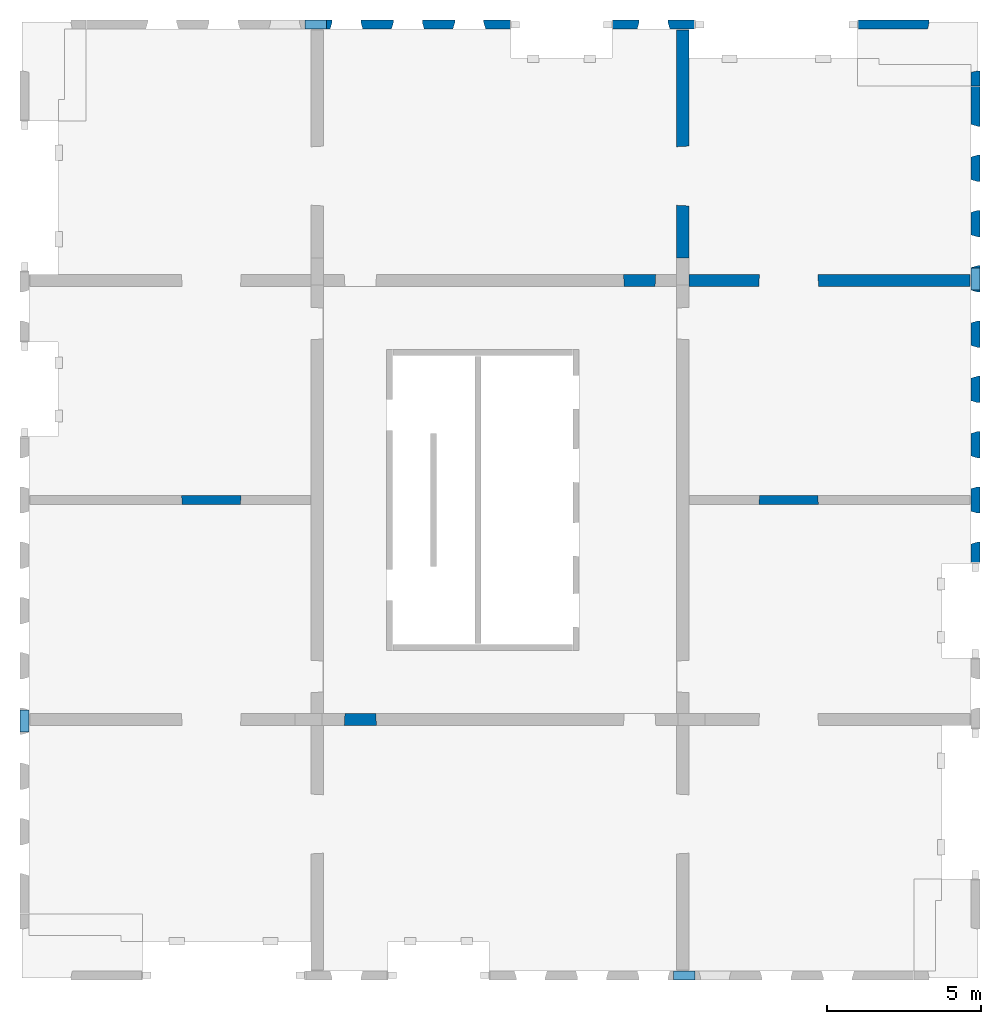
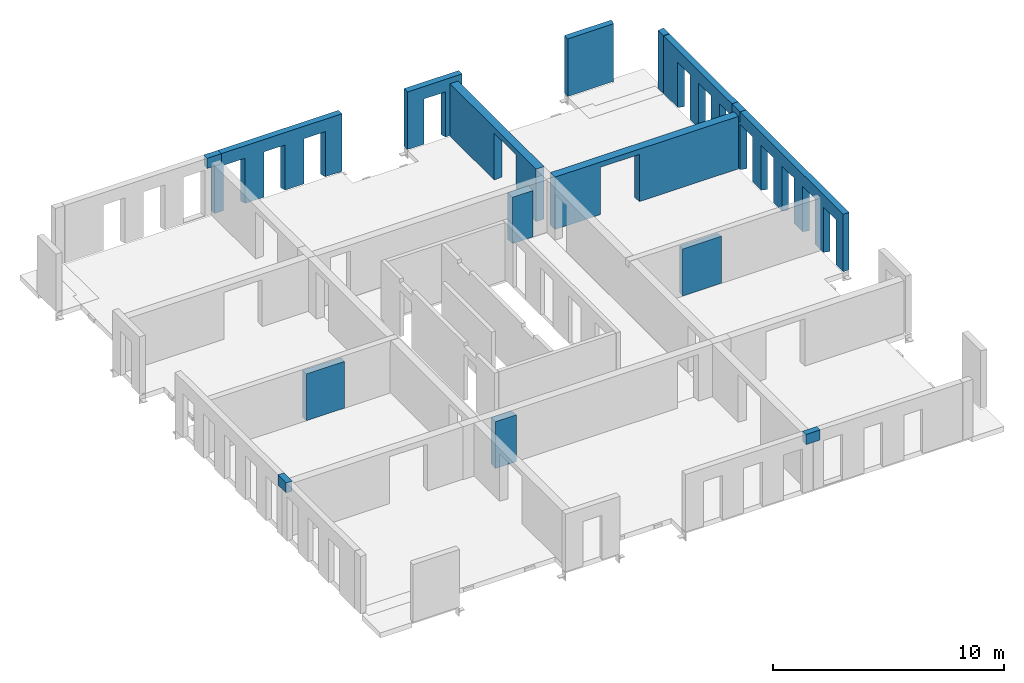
# One storey, part 4 of 4: 16 walls, 19 openings.
"""IFC2X3 building model written with IfcOpenShell, lengths in millimetres."""

from ifc_helpers import new_model, entity, si_unit, converted_unit, derived_unit, direction, frame, frame_2d, origin, place, context, subcontext, project, spatial, rectangle, extrude, faceted_brep, material, layer, layer_set, layer_usage, type_object, element, save


model = new_model("IFC2X3")

# Units and contexts
model_context = context("Model", 3, precision=0.01, world=origin(), true_north=direction((6.12303176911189e-17, 1.0)))
body_context = subcontext(model_context, "Body", "Model", "MODEL_VIEW")
ifc_project = project(units=[si_unit("LENGTHUNIT", "METRE", prefix="MILLI"), si_unit("AREAUNIT", "SQUARE_METRE"), si_unit("VOLUMEUNIT", "CUBIC_METRE"), converted_unit("PLANEANGLEUNIT", "DEGREE", entity("IfcRatioMeasure", 0.0174532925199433), si_unit("PLANEANGLEUNIT", "RADIAN"), dimensions=[0, 0, 0, 0, 0, 0, 0]), si_unit("MASSUNIT", "GRAM", prefix="KILO"), derived_unit("MASSDENSITYUNIT", [(si_unit("MASSUNIT", "GRAM", prefix="KILO"), 1), (si_unit("LENGTHUNIT", "METRE"), -3)]), si_unit("TIMEUNIT", "SECOND"), si_unit("FREQUENCYUNIT", "HERTZ"), si_unit("THERMODYNAMICTEMPERATUREUNIT", "DEGREE_CELSIUS"), derived_unit("THERMALTRANSMITTANCEUNIT", [(si_unit("MASSUNIT", "GRAM", prefix="KILO"), 1), (si_unit("THERMODYNAMICTEMPERATUREUNIT", "KELVIN"), -1), (si_unit("TIMEUNIT", "SECOND"), -3)]), derived_unit("VOLUMETRICFLOWRATEUNIT", [(si_unit("LENGTHUNIT", "METRE"), 3), (si_unit("TIMEUNIT", "SECOND"), -1)]), si_unit("ELECTRICCURRENTUNIT", "AMPERE"), si_unit("ELECTRICVOLTAGEUNIT", "VOLT"), si_unit("POWERUNIT", "WATT"), si_unit("FORCEUNIT", "NEWTON", prefix="KILO"), si_unit("ILLUMINANCEUNIT", "LUX"), si_unit("LUMINOUSFLUXUNIT", "LUMEN"), si_unit("LUMINOUSINTENSITYUNIT", "CANDELA"), derived_unit("USERDEFINED", [(si_unit("MASSUNIT", "GRAM", prefix="KILO"), -1), (si_unit("LENGTHUNIT", "METRE"), -2), (si_unit("TIMEUNIT", "SECOND"), 3), (si_unit("LUMINOUSFLUXUNIT", "LUMEN"), 1)]), derived_unit("LINEARVELOCITYUNIT", [(si_unit("LENGTHUNIT", "METRE"), 1), (si_unit("TIMEUNIT", "SECOND"), -1)]), si_unit("PRESSUREUNIT", "PASCAL"), derived_unit("USERDEFINED", [(si_unit("LENGTHUNIT", "METRE"), -2), (si_unit("MASSUNIT", "GRAM", prefix="KILO"), 1), (si_unit("TIMEUNIT", "SECOND"), -2)])], contexts=[model_context])

# Site, building, storey
site_placement = place(None, origin())
site = spatial("IfcSite", under=ifc_project, at=site_placement, Name="Default", CompositionType="ELEMENT")
building_placement = place(site_placement, origin())
building = spatial("IfcBuilding", under=site, at=building_placement, Name="niet gebruiken", CompositionType="ELEMENT")
storey_placement = place(building_placement, frame((0.0, 0.0, 79200.0)))
storey = spatial("IfcBuildingStorey", under=building, at=storey_placement, Name="25 vijfentwintigste verdieping", CompositionType="ELEMENT", Elevation=79200.0000000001)

# Walls
ifc_material_1 = material(Name="NLRS_f2_beton ihwg")
ifc_layer_1 = layer(ifc_material_1, 300.0)
ifc_layer_set_1 = layer_set([ifc_layer_1], Name="Basic Wall:NLRS_21.21_WA_beton ihwg d=300_gen")
ifc_layer_usage_1 = layer_usage(ifc_layer_set_1, "AXIS2", "NEGATIVE", 150.0)
wall_type_1 = type_object("IfcWallType", Name="Basic Wall:NLRS_21.21_WA_beton ihwg d=300_gen", PredefinedType="STANDARD", material=ifc_layer_set_1)
wall_1_placement = place(storey_placement, frame((148105.0, 2020.0, 2455.0), z_axis=(0.0, 0.0, 1.0), x_axis=(-1.0, 0.0, 0.0)))
element("IfcWallStandardCase", 1, at=wall_1_placement, inside=storey, type_object=wall_type_1, material=ifc_layer_usage_1, Name="Basic Wall:NLRS_21.21_WA_beton ihwg d=300_gen", ObjectType="Basic Wall:NLRS_21.21_WA_beton ihwg d=300_gen", context=body_context, shape_type="SweptSolid", body=[
    extrude(rectangle(XDim=710.000000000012, YDim=300.0, at=frame_2d((355.000000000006, -1.4210854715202e-14), x_axis=(-1.0, 0.0))), origin(), (0.0, 0.0, 1.0), 535.0),
])
ifc_layer_usage_2 = layer_usage(ifc_layer_set_1, "AXIS2", "NEGATIVE", 150.0)
wall_2_placement = place(storey_placement, frame((135395.0, 32980.0, 2455.0)))
element("IfcWallStandardCase", 2, at=wall_2_placement, inside=storey, type_object=wall_type_1, material=ifc_layer_usage_2, Name="Basic Wall:NLRS_21.21_WA_beton ihwg d=300_gen", ObjectType="Basic Wall:NLRS_21.21_WA_beton ihwg d=300_gen", context=body_context, shape_type="SweptSolid", body=[
    extrude(rectangle(XDim=710.000000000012, YDim=300.000000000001, at=frame_2d((355.000000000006, 0.0), x_axis=(-1.0, 0.0))), origin(), (0.0, 0.0, 1.0), 535.0),
])
ifc_layer_usage_3 = layer_usage(ifc_layer_set_1, "AXIS2", "NEGATIVE", 150.0)
wall_3_placement = place(storey_placement, frame((157230.0, 25055.0, 2455.0), z_axis=(0.0, 0.0, 1.0), x_axis=(0.0, -1.0, 0.0)))
element("IfcWallStandardCase", 3, at=wall_3_placement, inside=storey, type_object=wall_type_1, material=ifc_layer_usage_3, Name="Basic Wall:NLRS_21.21_WA_beton ihwg d=300_gen", ObjectType="Basic Wall:NLRS_21.21_WA_beton ihwg d=300_gen", context=body_context, shape_type="SweptSolid", body=[
    extrude(rectangle(XDim=710.000000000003, YDim=300.000000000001, at=frame_2d((355.000000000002, 9.9475983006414e-13), x_axis=(-1.0, 0.0))), origin(), (0.0, 0.0, 1.0), 535.0),
])
ifc_layer_usage_4 = layer_usage(ifc_layer_set_1, "AXIS2", "NEGATIVE", 150.0)
wall_4_placement = place(storey_placement, frame((126270.0, 9945.0, 2455.0), z_axis=(0.0, 0.0, 1.0), x_axis=(0.0, 1.0, 0.0)))
element("IfcWallStandardCase", 4, at=wall_4_placement, inside=storey, type_object=wall_type_1, material=ifc_layer_usage_4, Name="Basic Wall:NLRS_21.21_WA_beton ihwg d=300_gen", ObjectType="Basic Wall:NLRS_21.21_WA_beton ihwg d=300_gen", context=body_context, shape_type="SweptSolid", body=[
    extrude(rectangle(XDim=710.000000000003, YDim=300.000000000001, at=frame_2d((355.000000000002, 0.0), x_axis=(-1.0, 0.0))), origin(), (0.0, 0.0, 1.0), 535.0),
])

# Wall, opening
ifc_material_2 = material(Name="NLRS_f2_beton prefab")
ifc_layer_2 = layer(ifc_material_2, 400.0)
ifc_layer_set_2 = layer_set([ifc_layer_2], Name="Basic Wall:NLRS_22.21_WA_beton prefab d=400_gen")
ifc_layer_usage_5 = layer_usage(ifc_layer_set_2, "AXIS2", "NEGATIVE", 200.0)
wall_type_2 = type_object("IfcWallType", Name="Basic Wall:NLRS_22.21_WA_beton prefab d=400_gen", PredefinedType="STANDARD", material=ifc_layer_set_2)
wall_5_placement = place(storey_placement, frame((157060.0, 24650.0, -70.0), z_axis=(0.0, 0.0, 1.0), x_axis=(-1.0, 0.0, 0.0)))
wall_5 = element("IfcWallStandardCase", 5, at=wall_5_placement, inside=storey, type_object=wall_type_2, material=ifc_layer_usage_5, Name="Basic Wall:NLRS_22.21_WA_beton prefab d=400_gen", ObjectType="Basic Wall:NLRS_22.21_WA_beton prefab d=400_gen", context=body_context, shape_type="SweptSolid", body=[
    extrude(rectangle(XDim=9160.00000000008, YDim=399.999999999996, at=frame_2d((4580.00000000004, -9.2370555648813e-13), x_axis=(-1.0, 0.0))), origin(), (0.0, 0.0, 1.0), 2770.00000000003),
])
opening_1_placement = place(wall_5_placement, frame((6884.0, 200.0, 0.0)))
element("IfcOpeningElement", 6, at=opening_1_placement, cuts=wall_5, Name="Basic Wall:NLRS_22.21_WA_beton prefab d=400_gen", ObjectType="Opening", context=body_context, shape_type="Brep", body=[
    faceted_brep([(-24.0, -400.0, 2470.0), (-1924.0, -400.0, 2470.0), (-1924.0, -400.0, 0.0), (-24.0, -400.0, 0.0), (0.0, 0.0, 2494.0), (0.0, 0.0, 0.0), (-1948.0, 0.0, 0.0), (-1948.0, 0.0, 2494.0)], [[[0, 1, 2, 3]], [[4, 5, 6, 7]], [[4, 7, 1, 0]], [[7, 6, 2, 1]], [[6, 5, 3, 2]], [[5, 4, 0, 3]]]),
])

ifc_layer_usage_6 = layer_usage(ifc_layer_set_2, "AXIS2", "NEGATIVE", 200.0)
wall_6_placement = place(storey_placement, frame((147700.0, 25380.0, -70.0), z_axis=(0.0, 0.0, 1.0), x_axis=(0.0, 1.0, 0.0)))
wall_6 = element("IfcWallStandardCase", 7, at=wall_6_placement, inside=storey, type_object=wall_type_2, material=ifc_layer_usage_6, Name="Basic Wall:NLRS_22.21_WA_beton prefab d=400_gen", ObjectType="Basic Wall:NLRS_22.21_WA_beton prefab d=400_gen", context=body_context, shape_type="SweptSolid", body=[
    extrude(rectangle(XDim=7429.99999999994, YDim=400.000000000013, at=frame_2d((3714.99999999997, 7.14805992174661e-12), x_axis=(-1.0, 0.0))), origin(), (0.0, 0.0, 1.0), 2770.00000000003),
])
opening_2_placement = place(wall_6_placement, frame((1696.0, 200.0, 0.0)))
element("IfcOpeningElement", 8, at=opening_2_placement, cuts=wall_6, Name="Basic Wall:NLRS_22.21_WA_beton prefab d=400_gen", ObjectType="Opening", context=body_context, shape_type="Brep", body=[
    faceted_brep([(1924.0, 0.0, 2470.0), (1924.0, 0.0, 0.0), (24.0, 0.0, 0.0), (24.0, 0.0, 2470.0), (1948.0, -400.0, 2494.0), (0.0, -400.0, 2494.0), (0.0, -400.0, 0.0), (1948.0, -400.0, 0.0)], [[[0, 1, 2, 3]], [[4, 5, 6, 7]], [[4, 0, 3, 5]], [[5, 3, 2, 6]], [[6, 2, 1, 7]], [[7, 1, 0, 4]]]),
])

ifc_layer_3 = layer(ifc_material_2, 300.0)
ifc_layer_set_3 = layer_set([ifc_layer_3], Name="Basic Wall:NLRS_21.21_WA_beton prefab d=300/320_gen")
ifc_layer_usage_7 = layer_usage(ifc_layer_set_3, "AXIS2", "NEGATIVE", 150.0)
wall_type_3 = type_object("IfcWallType", Name="Basic Wall:NLRS_21.21_WA_beton prefab d=300/320_gen", PredefinedType="STANDARD", material=ifc_layer_set_3)
wall_7_placement = place(storey_placement, frame((145390.0, 32980.0, -50.0)))
wall_7 = element("IfcWallStandardCase", 9, at=wall_7_placement, inside=storey, type_object=wall_type_3, material=ifc_layer_usage_7, Name="Basic Wall:NLRS_21.21_WA_beton prefab d=300/320_gen", ObjectType="Basic Wall:NLRS_21.21_WA_beton prefab d=300/320_gen", context=body_context, shape_type="SweptSolid", body=[
    extrude(rectangle(XDim=2720.00000000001, YDim=300.000000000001, at=frame_2d((1360.0, -4.54747350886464e-13), x_axis=(-1.0, 0.0))), origin(), (0.0, 0.0, 1.0), 3040.0),
])
opening_3_placement = place(wall_7_placement, frame((825.0, -150.0, -20.0)))
element("IfcOpeningElement", 10, at=opening_3_placement, cuts=wall_7, Name="Basic Wall:NLRS_21.21_WA_beton prefab d=300/320_gen", ObjectType="Opening", context=body_context, shape_type="Brep", body=[
    faceted_brep([(0.0, 0.0, 2405.0), (0.0, 0.0, 0.0), (1070.0, 0.0, 0.0), (1070.0, 0.0, 2405.0), (1005.0, 219.0, 2370.0), (65.0, 219.0, 2370.0), (1005.0, 219.0, 0.0), (65.0, 219.0, 0.0), (65.0, 300.0, 0.0), (1005.0, 300.0, 0.0), (65.0, 300.0, 2370.0), (1005.0, 300.0, 2370.0)], [[[0, 1, 2, 3]], [[3, 4, 5, 0]], [[2, 6, 4, 3]], [[1, 7, 8, 9, 6, 2]], [[0, 5, 7, 1]], [[10, 11, 9, 8]], [[10, 5, 4, 11]], [[11, 4, 6, 9]], [[8, 7, 5, 10]]]),
])

# Wall, openings
ifc_layer_usage_8 = layer_usage(ifc_layer_set_3, "AXIS2", "NEGATIVE", 150.0)
wall_8_placement = place(storey_placement, frame((157230.0, 30960.0, -50.0), z_axis=(0.0, 0.0, 1.0), x_axis=(0.0, -1.0, 0.0)))
wall_8 = element("IfcWallStandardCase", 11, at=wall_8_placement, inside=storey, type_object=wall_type_3, material=ifc_layer_usage_8, Name="Basic Wall:NLRS_21.21_WA_beton prefab d=300/320_gen", ObjectType="Basic Wall:NLRS_21.21_WA_beton prefab d=300/320_gen", context=body_context, shape_type="SweptSolid", body=[
    extrude(rectangle(XDim=6249.99999999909, YDim=300.000000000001, at=frame_2d((3124.99999999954, -8.61177795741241e-12), x_axis=(-1.0, 0.0))), origin(), (0.0, 0.0, 1.0), 3039.99999999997),
])
opening_4_placement = place(wall_8_placement, frame((2295.0, -150.0, -20.0)))
element("IfcOpeningElement", 12, at=opening_4_placement, cuts=wall_8, Name="Basic Wall:NLRS_21.21_WA_beton prefab d=300/320_gen", ObjectType="Opening", context=body_context, shape_type="Brep", body=[
    faceted_brep([(-1070.0, 0.0, 2405.0), (-1070.0, 0.0, 0.0), (0.0, 0.0, 0.0), (0.0, 0.0, 2405.0), (-65.0, 219.0, 2370.0), (-1005.0, 219.0, 2370.0), (-65.0, 219.0, 0.0), (-1005.0, 219.0, 0.0), (-1005.0, 300.0, 0.0), (-65.0, 300.0, 0.0), (-1005.0, 300.0, 2370.0), (-65.0, 300.0, 2370.0)], [[[0, 1, 2, 3]], [[3, 4, 5, 0]], [[2, 6, 4, 3]], [[1, 7, 8, 9, 6, 2]], [[0, 5, 7, 1]], [[10, 11, 9, 8]], [[10, 5, 4, 11]], [[11, 4, 6, 9]], [[8, 7, 5, 10]]]),
])
opening_5_placement = place(wall_8_placement, frame((4095.0, -150.0, -20.0)))
element("IfcOpeningElement", 13, at=opening_5_placement, cuts=wall_8, Name="Basic Wall:NLRS_21.21_WA_beton prefab d=300/320_gen", ObjectType="Opening", context=body_context, shape_type="Brep", body=[
    faceted_brep([(-1070.0, 0.0, 2405.0), (-1070.0, 0.0, 0.0), (0.0, 0.0, 0.0), (0.0, 0.0, 2405.0), (-65.0, 219.0, 2370.0), (-1005.0, 219.0, 2370.0), (-65.0, 219.0, 0.0), (-1005.0, 219.0, 0.0), (-1005.0, 300.0, 0.0), (-65.0, 300.0, 0.0), (-1005.0, 300.0, 2370.0), (-65.0, 300.0, 2370.0)], [[[0, 1, 2, 3]], [[3, 4, 5, 0]], [[2, 6, 4, 3]], [[1, 7, 8, 9, 6, 2]], [[0, 5, 7, 1]], [[10, 11, 9, 8]], [[10, 5, 4, 11]], [[11, 4, 6, 9]], [[8, 7, 5, 10]]]),
])
opening_6_placement = place(wall_8_placement, frame((5895.0, -150.0, -20.0)))
element("IfcOpeningElement", 14, at=opening_6_placement, cuts=wall_8, Name="Basic Wall:NLRS_21.21_WA_beton prefab d=300/320_gen", ObjectType="Opening", context=body_context, shape_type="Brep", body=[
    faceted_brep([(-1070.0, 0.0, 2405.0), (-1070.0, 0.0, 0.0), (0.0, 0.0, 0.0), (0.0, 0.0, 2405.0), (-65.0, 219.0, 2370.0), (-1005.0, 219.0, 2370.0), (-65.0, 219.0, 0.0), (-1005.0, 219.0, 0.0), (-1005.0, 300.0, 0.0), (-65.0, 300.0, 0.0), (-1005.0, 300.0, 2370.0), (-65.0, 300.0, 2370.0)], [[[0, 1, 2, 3]], [[3, 4, 5, 0]], [[2, 6, 4, 3]], [[1, 7, 8, 9, 6, 2]], [[0, 5, 7, 1]], [[10, 11, 9, 8]], [[10, 5, 4, 11]], [[11, 4, 6, 9]], [[8, 7, 5, 10]]]),
])
opening_7_placement = place(wall_8_placement, origin())
element("IfcOpeningElement", 15, at=opening_7_placement, cuts=wall_8, Name="Basic Wall:NLRS_21.21_WA_beton prefab d=300/320_gen", ObjectType="Opening", context=body_context, shape_type="SweptSolid", body=[
    extrude(rectangle(XDim=534.99999999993, YDim=344.999999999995, at=frame_2d((0.0, -2.17426077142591e-12), x_axis=(1.0, 0.0))), frame((6077.49999999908, 150.0, 2772.5), z_axis=(0.0, -1.0, 0.0), x_axis=(0.0, 0.0, 1.0)), (0.0, 0.0, 1.0), 300.0),
])

# Wall, opening
ifc_layer_usage_9 = layer_usage(ifc_layer_set_3, "AXIS2", "NEGATIVE", 150.0)
wall_9_placement = place(storey_placement, frame((153390.0, 32980.0, -50.0)))
wall_9 = element("IfcWallStandardCase", 16, at=wall_9_placement, inside=storey, type_object=wall_type_3, material=ifc_layer_usage_9, Name="Basic Wall:NLRS_21.21_WA_beton prefab d=300/320_gen", ObjectType="Basic Wall:NLRS_21.21_WA_beton prefab d=300/320_gen", context=body_context, shape_type="SweptSolid", body=[
    extrude(rectangle(XDim=2330.00000000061, YDim=300.000000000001, at=frame_2d((1165.00000000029, -1.29318777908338e-12), x_axis=(-1.0, 0.0))), origin(), (0.0, 0.0, 1.0), 3040.0),
])
opening_8_placement = place(wall_9_placement, frame((2265.0, -250.0, 0.0)))
element("IfcOpeningElement", 17, at=opening_8_placement, cuts=wall_9, Name="Basic Wall:NLRS_21.21_WA_beton prefab d=300/320_gen", ObjectType="Opening", context=body_context, shape_type="Brep", body=[
    faceted_brep([(65.0, 0.0, 3040.0), (65.0, 319.0, 3040.0), (0.0, 0.0, 3040.0), (65.0, 0.0, 0.0), (0.0, 0.0, 0.0), (65.0, 319.0, 0.0)], [[[0, 1, 2]], [[3, 4, 5]], [[2, 4, 3, 0]], [[0, 3, 5, 1]], [[1, 5, 4, 2]]]),
])

ifc_layer_usage_10 = layer_usage(ifc_layer_set_3, "AXIS2", "NEGATIVE", 150.0)
wall_10_placement = place(storey_placement, frame((157230.0, 31470.0, -50.0), z_axis=(0.0, 0.0, 1.0), x_axis=(0.0, -1.0, 0.0)))
wall_10 = element("IfcWallStandardCase", 18, at=wall_10_placement, inside=storey, type_object=wall_type_3, material=ifc_layer_usage_10, Name="Basic Wall:NLRS_21.21_WA_beton prefab d=300/320_gen", ObjectType="Basic Wall:NLRS_21.21_WA_beton prefab d=300/320_gen", context=body_context, shape_type="SweptSolid", body=[
    extrude(rectangle(XDim=489.999999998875, YDim=300.000000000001, at=frame_2d((244.999999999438, -7.8159700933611e-13), x_axis=(-1.0, 0.0))), origin(), (0.0, 0.0, 1.0), 3040.0),
])
opening_9_placement = place(wall_10_placement, frame((65.0, -250.0, 0.0)))
element("IfcOpeningElement", 19, at=opening_9_placement, cuts=wall_10, Name="Basic Wall:NLRS_21.21_WA_beton prefab d=300/320_gen", ObjectType="Opening", context=body_context, shape_type="Brep", body=[
    faceted_brep([(-65.0, 0.0, 3040.0), (0.0, 0.0, 3040.0), (-65.0, 319.0, 3040.0), (-65.0, 0.0, 0.0), (-65.0, 319.0, 0.0), (0.0, 0.0, 0.0)], [[[0, 1, 2]], [[3, 4, 5]], [[1, 0, 3, 5]], [[0, 2, 4, 3]], [[2, 1, 5, 4]]]),
])

# Wall, openings
ifc_layer_usage_11 = layer_usage(ifc_layer_set_3, "AXIS2", "NEGATIVE", 150.0)
wall_11_placement = place(storey_placement, frame((157230.0, 24690.0, -50.0), z_axis=(0.0, 0.0, 1.0), x_axis=(0.0, -1.0, 0.0)))
wall_11 = element("IfcWallStandardCase", 20, at=wall_11_placement, inside=storey, type_object=wall_type_3, material=ifc_layer_usage_11, Name="Basic Wall:NLRS_21.21_WA_beton prefab d=300/320_gen", ObjectType="Basic Wall:NLRS_21.21_WA_beton prefab d=300/320_gen", context=body_context, shape_type="SweptSolid", body=[
    extrude(rectangle(XDim=9250.00000000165, YDim=300.000000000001, at=frame_2d((4625.00000000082, -4.43378667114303e-12), x_axis=(-1.0, 0.0))), origin(), (0.0, 0.0, 1.0), 3040.0),
])
opening_10_placement = place(wall_11_placement, frame((8625.0, -150.0, -20.0)))
element("IfcOpeningElement", 21, at=opening_10_placement, cuts=wall_11, Name="Basic Wall:NLRS_21.21_WA_beton prefab d=300/320_gen", ObjectType="Opening", context=body_context, shape_type="Brep", body=[
    faceted_brep([(-1070.0, 0.0, 2405.0), (-1070.0, 0.0, 0.0), (0.0, 0.0, 0.0), (0.0, 0.0, 2405.0), (-65.0, 219.0, 2370.0), (-1005.0, 219.0, 2370.0), (-65.0, 219.0, 0.0), (-1005.0, 219.0, 0.0), (-1005.0, 300.0, 0.0), (-65.0, 300.0, 0.0), (-1005.0, 300.0, 2370.0), (-65.0, 300.0, 2370.0)], [[[0, 1, 2, 3]], [[3, 4, 5, 0]], [[2, 6, 4, 3]], [[1, 7, 8, 9, 6, 2]], [[0, 5, 7, 1]], [[10, 11, 9, 8]], [[10, 5, 4, 11]], [[11, 4, 6, 9]], [[8, 7, 5, 10]]]),
])
opening_11_placement = place(wall_11_placement, frame((5025.0, -150.0, -20.0)))
element("IfcOpeningElement", 22, at=opening_11_placement, cuts=wall_11, Name="Basic Wall:NLRS_21.21_WA_beton prefab d=300/320_gen", ObjectType="Opening", context=body_context, shape_type="Brep", body=[
    faceted_brep([(-1070.0, 0.0, 2405.0), (-1070.0, 0.0, 0.0), (0.0, 0.0, 0.0), (0.0, 0.0, 2405.0), (-65.0, 219.0, 2370.0), (-1005.0, 219.0, 2370.0), (-65.0, 219.0, 0.0), (-1005.0, 219.0, 0.0), (-1005.0, 300.0, 0.0), (-65.0, 300.0, 0.0), (-1005.0, 300.0, 2370.0), (-65.0, 300.0, 2370.0)], [[[0, 1, 2, 3]], [[3, 4, 5, 0]], [[2, 6, 4, 3]], [[1, 7, 8, 9, 6, 2]], [[0, 5, 7, 1]], [[10, 11, 9, 8]], [[10, 5, 4, 11]], [[11, 4, 6, 9]], [[8, 7, 5, 10]]]),
])
opening_12_placement = place(wall_11_placement, frame((3225.0, -150.0, -20.0)))
element("IfcOpeningElement", 23, at=opening_12_placement, cuts=wall_11, Name="Basic Wall:NLRS_21.21_WA_beton prefab d=300/320_gen", ObjectType="Opening", context=body_context, shape_type="Brep", body=[
    faceted_brep([(-1070.0, 0.0, 2405.0), (-1070.0, 0.0, 0.0), (0.0, 0.0, 0.0), (0.0, 0.0, 2405.0), (-65.0, 219.0, 2370.0), (-1005.0, 219.0, 2370.0), (-65.0, 219.0, 0.0), (-1005.0, 219.0, 0.0), (-1005.0, 300.0, 0.0), (-65.0, 300.0, 0.0), (-1005.0, 300.0, 2370.0), (-65.0, 300.0, 2370.0)], [[[0, 1, 2, 3]], [[3, 4, 5, 0]], [[2, 6, 4, 3]], [[1, 7, 8, 9, 6, 2]], [[0, 5, 7, 1]], [[10, 11, 9, 8]], [[10, 5, 4, 11]], [[11, 4, 6, 9]], [[8, 7, 5, 10]]]),
])
opening_13_placement = place(wall_11_placement, frame((6825.0, -150.0, -20.0)))
element("IfcOpeningElement", 24, at=opening_13_placement, cuts=wall_11, Name="Basic Wall:NLRS_21.21_WA_beton prefab d=300/320_gen", ObjectType="Opening", context=body_context, shape_type="Brep", body=[
    faceted_brep([(-1070.0, 0.0, 2405.0), (-1070.0, 0.0, 0.0), (0.0, 0.0, 0.0), (0.0, 0.0, 2405.0), (-65.0, 219.0, 2370.0), (-1005.0, 219.0, 2370.0), (-65.0, 219.0, 0.0), (-1005.0, 219.0, 0.0), (-1005.0, 300.0, 0.0), (-65.0, 300.0, 0.0), (-1005.0, 300.0, 2370.0), (-65.0, 300.0, 2370.0)], [[[0, 1, 2, 3]], [[3, 4, 5, 0]], [[2, 6, 4, 3]], [[1, 7, 8, 9, 6, 2]], [[0, 5, 7, 1]], [[10, 11, 9, 8]], [[10, 5, 4, 11]], [[11, 4, 6, 9]], [[8, 7, 5, 10]]]),
])
opening_14_placement = place(wall_11_placement, frame((1425.0, -150.0, -20.0)))
element("IfcOpeningElement", 25, at=opening_14_placement, cuts=wall_11, Name="Basic Wall:NLRS_21.21_WA_beton prefab d=300/320_gen", ObjectType="Opening", context=body_context, shape_type="Brep", body=[
    faceted_brep([(0.0, 0.0, 2405.0), (-1070.0, 0.0, 2405.0), (-1070.0, 0.0, 0.0), (0.0, 0.0, 0.0), (-65.0, 219.0, 2370.0), (-1005.0, 219.0, 2370.0), (-1005.0, 219.0, 0.0), (-1005.0, 300.0, 0.0), (-65.0, 300.0, 0.0), (-65.0, 219.0, 0.0), (-65.0, 300.0, 2370.0), (-1005.0, 300.0, 2370.0)], [[[0, 1, 2, 3]], [[1, 0, 4, 5]], [[2, 1, 5, 6]], [[3, 2, 6, 7, 8, 9]], [[0, 3, 9, 4]], [[10, 8, 7, 11]], [[10, 11, 5, 4]], [[11, 7, 6, 5]], [[8, 10, 4, 9]]]),
])
opening_15_placement = place(wall_11_placement, origin())
element("IfcOpeningElement", 26, at=opening_15_placement, cuts=wall_11, Name="Basic Wall:NLRS_21.21_WA_beton prefab d=300/320_gen", ObjectType="Opening", context=body_context, shape_type="SweptSolid", body=[
    extrude(rectangle(XDim=534.999999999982, YDim=345.000000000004, at=frame_2d((-2.1600499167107e-12, 8.66862137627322e-12), x_axis=(0.0, 1.0))), frame((172.5, 150.0, 2772.5), z_axis=(0.0, -1.0, 0.0), x_axis=(-1.0, 0.0, 0.0)), (0.0, 0.0, 1.0), 300.0),
])

ifc_layer_usage_12 = layer_usage(ifc_layer_set_3, "AXIS2", "NEGATIVE", 150.0)
wall_12_placement = place(storey_placement, frame((135760.0, 32980.0, -50.0)))
wall_12 = element("IfcWallStandardCase", 27, at=wall_12_placement, inside=storey, type_object=wall_type_3, material=ifc_layer_usage_12, Name="Basic Wall:NLRS_21.21_WA_beton prefab d=300/320_gen", ObjectType="Basic Wall:NLRS_21.21_WA_beton prefab d=300/320_gen", context=body_context, shape_type="SweptSolid", body=[
    extrude(rectangle(XDim=6350.00000000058, YDim=300.000000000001, at=frame_2d((3175.00000000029, 0.0), x_axis=(-1.0, 0.0))), origin(), (0.0, 0.0, 1.0), 3040.0),
])
opening_16_placement = place(wall_12_placement, frame((455.0, -150.0, -20.0)))
element("IfcOpeningElement", 28, at=opening_16_placement, cuts=wall_12, Name="Basic Wall:NLRS_21.21_WA_beton prefab d=300/320_gen", ObjectType="Opening", context=body_context, shape_type="Brep", body=[
    faceted_brep([(1070.0, 0.0, 2405.0), (0.0, 0.0, 2405.0), (0.0, 0.0, 0.0), (1070.0, 0.0, 0.0), (1005.0, 219.0, 2370.0), (65.0, 219.0, 2370.0), (65.0, 219.0, 0.0), (65.0, 300.0, 0.0), (1005.0, 300.0, 0.0), (1005.0, 219.0, 0.0), (1005.0, 300.0, 2370.0), (65.0, 300.0, 2370.0)], [[[0, 1, 2, 3]], [[1, 0, 4, 5]], [[2, 1, 5, 6]], [[3, 2, 6, 7, 8, 9]], [[0, 3, 9, 4]], [[10, 8, 7, 11]], [[10, 11, 5, 4]], [[11, 7, 6, 5]], [[8, 10, 4, 9]]]),
])
opening_17_placement = place(wall_12_placement, frame((2455.0, -150.0, -20.0)))
element("IfcOpeningElement", 29, at=opening_17_placement, cuts=wall_12, Name="Basic Wall:NLRS_21.21_WA_beton prefab d=300/320_gen", ObjectType="Opening", context=body_context, shape_type="Brep", body=[
    faceted_brep([(1070.0, 0.0, 2405.0), (0.0, 0.0, 2405.0), (0.0, 0.0, 0.0), (1070.0, 0.0, 0.0), (1005.0, 219.0, 2370.0), (65.0, 219.0, 2370.0), (65.0, 219.0, 0.0), (65.0, 300.0, 0.0), (1005.0, 300.0, 0.0), (1005.0, 219.0, 0.0), (1005.0, 300.0, 2370.0), (65.0, 300.0, 2370.0)], [[[0, 1, 2, 3]], [[1, 0, 4, 5]], [[2, 1, 5, 6]], [[3, 2, 6, 7, 8, 9]], [[0, 3, 9, 4]], [[10, 8, 7, 11]], [[10, 11, 5, 4]], [[11, 7, 6, 5]], [[8, 10, 4, 9]]]),
])
opening_18_placement = place(wall_12_placement, frame((4455.0, -150.0, -20.0)))
element("IfcOpeningElement", 30, at=opening_18_placement, cuts=wall_12, Name="Basic Wall:NLRS_21.21_WA_beton prefab d=300/320_gen", ObjectType="Opening", context=body_context, shape_type="Brep", body=[
    faceted_brep([(1070.0, 0.0, 2405.0), (0.0, 0.0, 2405.0), (0.0, 0.0, 0.0), (1070.0, 0.0, 0.0), (1005.0, 219.0, 2370.0), (65.0, 219.0, 2370.0), (65.0, 219.0, 0.0), (65.0, 300.0, 0.0), (1005.0, 300.0, 0.0), (1005.0, 219.0, 0.0), (1005.0, 300.0, 2370.0), (65.0, 300.0, 2370.0)], [[[0, 1, 2, 3]], [[1, 0, 4, 5]], [[2, 1, 5, 6]], [[3, 2, 6, 7, 8, 9]], [[0, 3, 9, 4]], [[10, 8, 7, 11]], [[10, 11, 5, 4]], [[11, 7, 6, 5]], [[8, 10, 4, 9]]]),
])
opening_19_placement = place(wall_12_placement, origin())
element("IfcOpeningElement", 31, at=opening_19_placement, cuts=wall_12, Name="Basic Wall:NLRS_21.21_WA_beton prefab d=300/320_gen", ObjectType="Opening", context=body_context, shape_type="SweptSolid", body=[
    extrude(rectangle(XDim=534.999999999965, YDim=345.000000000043, at=frame_2d((0.0, 0.0), x_axis=(0.0, 1.0))), frame((172.500000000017, 150.0, 2772.5), z_axis=(0.0, -1.0, 0.0), x_axis=(-1.0, 0.0, 0.0)), (0.0, 0.0, 1.0), 300.0),
])

# Walls
ifc_material_3 = material(Name="NLRS_f2_beton prefab dichtstorten")
wall_type_4 = type_object("IfcWallType", Name="Parametric Wall:NLRS_22.21_WA_beton prefab d=500 1900x2470_gen", PredefinedType="NOTDEFINED", material=ifc_material_3)
wall_13_placement = place(storey_placement, frame((131382.0, 17350.0, -70.0)))
element("IfcWall", 32, at=wall_13_placement, inside=storey, type_object=wall_type_4, material=ifc_material_3, Name="Parametric Wall:NLRS_22.21_WA_beton prefab d=500 1900x2470_gen", ObjectType="Parametric Wall:NLRS_22.21_WA_beton prefab d=500 1900x2470_gen", context=body_context, shape_type="Brep", body=[
    faceted_brep([(1936.0, 300.0, 2488.0), (1936.0, 300.0, 0.0), (0.0, 300.0, 0.0), (0.0, 300.0, 2488.0), (1918.0, 0.0, 2470.0), (18.0, 0.0, 2470.0), (18.0, 0.0, 0.0), (1918.0, 0.0, 0.0)], [[[0, 1, 2, 3]], [[4, 5, 6, 7]], [[4, 7, 1, 0]], [[7, 6, 2, 1]], [[6, 5, 3, 2]], [[5, 4, 0, 3]]]),
])
wall_14_placement = place(storey_placement, frame((150182.0, 17350.0, -70.0)))
element("IfcWall", 33, at=wall_14_placement, inside=storey, type_object=wall_type_4, material=ifc_material_3, Name="Parametric Wall:NLRS_22.21_WA_beton prefab d=500 1900x2470_gen", ObjectType="Parametric Wall:NLRS_22.21_WA_beton prefab d=500 1900x2470_gen", context=body_context, shape_type="Brep", body=[
    faceted_brep([(0.0, 0.0, 2488.0), (0.0, 0.0, 0.0), (1936.0, 0.0, 0.0), (1936.0, 0.0, 2488.0), (18.0, 300.0, 2470.0), (1918.0, 300.0, 2470.0), (1918.0, 300.0, 0.0), (18.0, 300.0, 0.0)], [[[0, 1, 2, 3]], [[4, 5, 6, 7]], [[4, 7, 1, 0]], [[7, 6, 2, 1]], [[6, 5, 3, 2]], [[5, 4, 0, 3]]]),
])
wall_type_5 = type_object("IfcWallType", Name="Parametric Wall:NLRS_22.21_WA_beton prefab d=500 1006x2448_gen", PredefinedType="NOTDEFINED", material=ifc_material_3)
wall_15_placement = place(storey_placement, frame((136676.0, 10150.0, -70.0)))
element("IfcWall", 34, at=wall_15_placement, inside=storey, type_object=wall_type_5, material=ifc_material_3, Name="Parametric Wall:NLRS_22.21_WA_beton prefab d=500 1006x2448_gen", ObjectType="Parametric Wall:NLRS_22.21_WA_beton prefab d=500 1006x2448_gen", context=body_context, shape_type="Brep", body=[
    faceted_brep([(0.0, 0.0, 2472.0), (0.0, 0.0, 0.0), (1054.0, 0.0, 0.0), (1054.0, 0.0, 2472.0), (24.0, 400.0, 2448.0), (1030.0, 400.0, 2448.0), (1030.0, 400.0, 0.0), (24.0, 400.0, 0.0)], [[[0, 1, 2, 3]], [[4, 5, 6, 7]], [[4, 7, 1, 0]], [[7, 6, 2, 1]], [[6, 5, 3, 2]], [[5, 4, 0, 3]]]),
])
wall_16_placement = place(storey_placement, frame((145770.0, 24450.0, -70.0)))
element("IfcWall", 35, at=wall_16_placement, inside=storey, type_object=wall_type_5, material=ifc_material_3, Name="Parametric Wall:NLRS_22.21_WA_beton prefab d=500 1006x2448_gen", ObjectType="Parametric Wall:NLRS_22.21_WA_beton prefab d=500 1006x2448_gen", context=body_context, shape_type="Brep", body=[
    faceted_brep([(1054.0, 400.0, 2472.0), (1054.0, 400.0, 0.0), (0.0, 400.0, 0.0), (0.0, 400.0, 2472.0), (1030.0, 0.0, 2448.0), (24.0, 0.0, 2448.0), (24.0, 0.0, 0.0), (1030.0, 0.0, 0.0)], [[[0, 1, 2, 3]], [[4, 5, 6, 7]], [[4, 7, 1, 0]], [[7, 6, 2, 1]], [[6, 5, 3, 2]], [[5, 4, 0, 3]]]),
])

save(model, "model.ifc")
